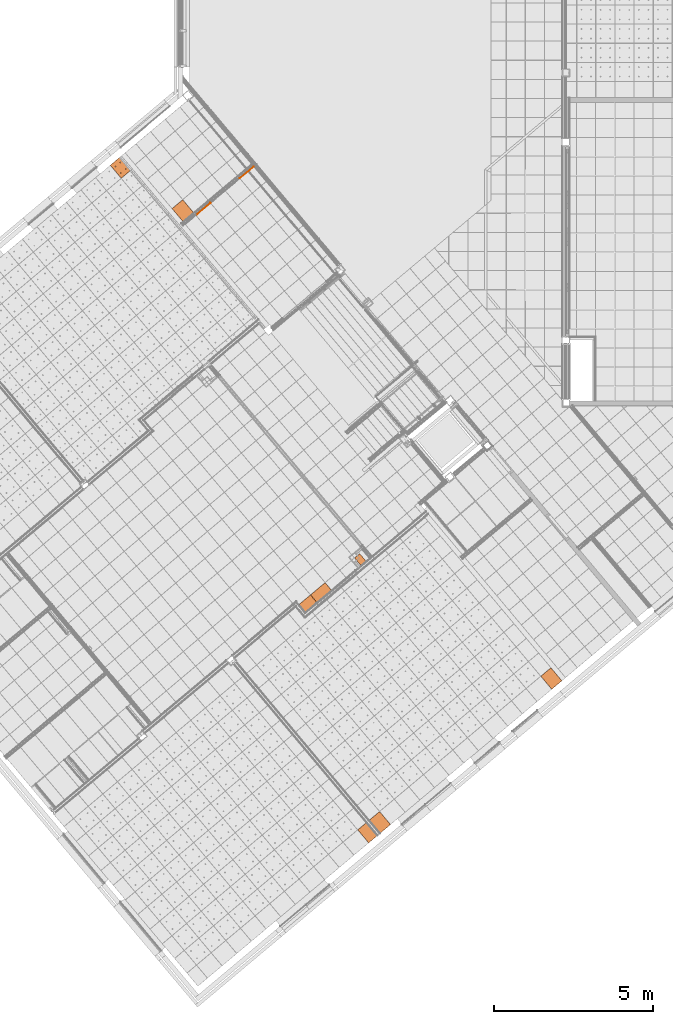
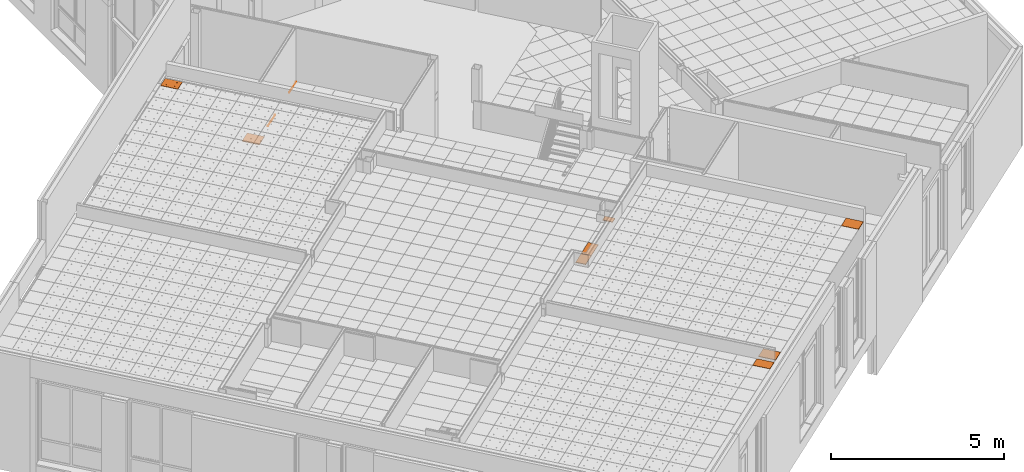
# One storey, part 328 of 338: 10 proxies, 6 elements without a shape of their own.
"""IFC2X3 building model written with IfcOpenShell, lengths in millimetres."""

from ifc_helpers import new_model, entity, si_unit, converted_unit, derived_unit, money_unit, direction, frame, origin_with_axes, place, context, subcontext, project, spatial, faceted_brep, material, type_object, element, aggregate, save


model = new_model("IFC2X3")

# Units and contexts
model_context = context("Model", 3, precision=0.01, world=origin_with_axes(), true_north=direction((0.0, 1.0)))
plan_context = context("Plan", 3, precision=0.01, world=origin_with_axes(), true_north=direction((0.0, 1.0)))
body_context = subcontext(model_context, "Body", "Model", "MODEL_VIEW")
ifc_project = project(units=[si_unit("LENGTHUNIT", "METRE", prefix="MILLI"), si_unit("AREAUNIT", "SQUARE_METRE"), si_unit("VOLUMEUNIT", "CUBIC_METRE"), converted_unit("PLANEANGLEUNIT", "DEGREE", entity("IfcPlaneAngleMeasure", 0.0174532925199), si_unit("PLANEANGLEUNIT", "RADIAN"), dimensions=[0, 0, 0, 0, 0, 0, 0]), money_unit("EUR"), converted_unit("TIMEUNIT", "Year", entity("IfcTimeMeasure", 31556926.0), si_unit("TIMEUNIT", "SECOND"), dimensions=[0, 0, 1, 0, 0, 0, 0]), si_unit("MASSUNIT", "GRAM", prefix="KILO"), si_unit("THERMODYNAMICTEMPERATUREUNIT", "DEGREE_CELSIUS"), si_unit("LUMINOUSINTENSITYUNIT", "LUMEN"), si_unit("ENERGYUNIT", "JOULE", prefix="MEGA"), derived_unit("THERMALCONDUCTANCEUNIT", [(si_unit("POWERUNIT", "WATT"), 1), (si_unit("LENGTHUNIT", "METRE"), -1), (si_unit("THERMODYNAMICTEMPERATUREUNIT", "KELVIN"), -1)]), derived_unit("SPECIFICHEATCAPACITYUNIT", [(si_unit("ENERGYUNIT", "JOULE"), 1), (si_unit("MASSUNIT", "GRAM", prefix="KILO"), -1), (si_unit("THERMODYNAMICTEMPERATUREUNIT", "KELVIN"), -1)]), derived_unit("MASSDENSITYUNIT", [(si_unit("MASSUNIT", "GRAM", prefix="KILO"), 1), (si_unit("VOLUMEUNIT", "CUBIC_METRE"), -1)])], contexts=[model_context, plan_context])

# Site, building, storey
site_placement = place(None, origin_with_axes())
site = spatial("IfcSite", under=ifc_project, at=site_placement, Name="Fortuinstraat Woensdrecht", CompositionType="ELEMENT")
building_placement = place(site_placement, origin_with_axes())
building = spatial("IfcBuilding", under=site, at=building_placement, Name="IKC Fortuna", CompositionType="ELEMENT")
storey_placement = place(building_placement, origin_with_axes())
storey = spatial("IfcBuildingStorey", under=building, at=storey_placement, Name="00 begane grond", CompositionType="ELEMENT", Elevation=0.0)

# Covering, proxies
covering_type = type_object("IfcCoveringType", Name="Curtain Wall Type", PredefinedType="CEILING")
covering_1_placement = place(storey_placement, frame((17937.1227498, -4186.27868692, 4660.0), z_axis=(0.0, 0.0, 1.0), x_axis=(1.0, 0.0, 0.0)))
covering_1 = element("IfcCovering", 1, at=covering_1_placement, inside=storey, type_object=covering_type, Name="45_Plafondafwerking_P02", PredefinedType="CEILING")
ifc_material = material(Name="Gipsplaat")
building_element_proxy_type_1 = type_object("IfcBuildingElementProxyType", Name="Distinct Panel 600 x 320 x 20", PredefinedType="NOTDEFINED")
proxy_1_placement = place(covering_1_placement, origin_with_axes())
proxy_1 = element("IfcBuildingElementProxy", 2, at=proxy_1_placement, type_object=building_element_proxy_type_1, material=ifc_material, Name="__Panel-D", context=body_context, shape_type="Brep", body=[
    faceted_brep([(126.74641276, 311.777288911, -10.0), (-329.049938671, -70.6814593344, -10.0), (-329.049938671, -70.6814593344, 9.99999999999), (126.74641276, 311.777288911, 9.99999999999), (329.049960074, 70.6814301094, -10.0), (-126.74638147, -311.777318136, -10.0), (-126.74638147, -311.777318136, 9.99999999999), (329.049960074, 70.6814301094, 9.99999999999)], [[[0, 1, 2, 3]], [[0, 4, 5, 1]], [[1, 5, 6, 2]], [[3, 2, 6, 7]], [[4, 0, 3, 7]], [[5, 4, 7, 6]]]),
])
building_element_proxy_type_2 = type_object("IfcBuildingElementProxyType", Name="Distinct Panel 215 x 320 x 20", PredefinedType="NOTDEFINED")
proxy_2_placement = place(covering_1_placement, frame((1231.51413168, 1033.36359253, 0.0), z_axis=(0.0, 0.0, 1.0), x_axis=(1.0, 0.0, 0.0)))
proxy_2 = element("IfcBuildingElementProxy", 3, at=proxy_2_placement, type_object=building_element_proxy_type_2, material=ifc_material, Name="__Panel-D", context=body_context, shape_type="Brep", body=[
    faceted_brep([(-20.6195023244, 188.122528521, -10.0), (-181.684366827, 52.9729974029, -10.0), (-181.684366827, 52.9729974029, 9.99999999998), (-20.6195023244, 188.122528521, 9.99999999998), (181.68473127, -52.972733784, -10.0), (20.6191785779, -188.122850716, -10.0), (20.6191785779, -188.122850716, 9.99999999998), (181.68473127, -52.972733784, 9.99999999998)], [[[0, 1, 2, 3]], [[0, 4, 5, 1]], [[1, 5, 6, 2]], [[3, 2, 6, 7]], [[4, 0, 3, 7]], [[5, 4, 7, 6]]]),
])
building_element_proxy_type_3 = type_object("IfcBuildingElementProxyType", Name="Distinct Panel 471 x 320 x 20", PredefinedType="NOTDEFINED")
proxy_3_placement = place(covering_1_placement, frame((-410.118940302, -344.130828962, 0.0), z_axis=(0.0, 0.0, 1.0), x_axis=(1.0, 0.0, 0.0)))
proxy_3 = element("IfcBuildingElementProxy", 4, at=proxy_3_placement, type_object=building_element_proxy_type_3, material=ifc_material, Name="__Panel-D", context=body_context, shape_type="Brep", body=[
    faceted_brep([(77.2387794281, 270.235430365, -10.0), (-279.542308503, -29.1396000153, -10.0), (-279.542308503, -29.1396000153, 9.99999999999), (77.2387794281, 270.235430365, 9.99999999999), (279.542339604, 29.1395682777, -10.0), (-77.2387567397, -270.235462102, -10.0), (-77.2387567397, -270.235462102, 9.99999999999), (279.542339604, 29.1395682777, 9.99999999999)], [[[0, 1, 2, 3]], [[0, 4, 5, 1]], [[1, 5, 6, 2]], [[3, 2, 6, 7]], [[4, 0, 3, 7]], [[5, 4, 7, 6]]]),
])
aggregate(covering_1, [proxy_1, proxy_2, proxy_3])

# Covering, proxy
covering_2_placement = place(storey_placement, frame((13600.915258, 7795.68497331, 2810.0), z_axis=(0.0, 0.0, 1.0), x_axis=(1.0, 0.0, 0.0)))
covering_2 = element("IfcCovering", 5, at=covering_2_placement, inside=storey, type_object=covering_type, Name="45_Plafondafwerking_P02 gec", PredefinedType="CEILING")
building_element_proxy_type_4 = type_object("IfcBuildingElementProxyType", Name="Distinct Panel 440 x 538 x 20", PredefinedType="NOTDEFINED")
proxy_4_placement = place(covering_2_placement, origin_with_axes())
proxy_4 = element("IfcBuildingElementProxy", 6, at=proxy_4_placement, type_object=building_element_proxy_type_4, material=ifc_material, Name="__Panel-D", context=body_context, shape_type="Brep", body=[
    faceted_brep([(-4.71075392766, 343.789781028, -10.0), (-4.71075392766, 343.789781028, 9.99999999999), (337.748846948, -64.3375579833, 9.99999999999), (337.748846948, -64.3375579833, -10.0), (-337.748845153, 64.3375579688, -10.0), (-337.748845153, 64.3375579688, 9.99999999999), (4.71076604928, -343.789781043, 9.99999999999), (4.71076604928, -343.789781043, -10.0)], [[[0, 1, 2, 3]], [[4, 5, 1, 0]], [[1, 5, 6, 2]], [[3, 2, 6, 7]], [[0, 3, 7, 4]], [[7, 6, 5, 4]]]),
])
aggregate(covering_2, [proxy_4])

# Covering, proxies
covering_3_placement = place(storey_placement, frame((15581.2998521, 5435.5548951, 3210.0), z_axis=(0.0, 0.0, 1.0), x_axis=(1.0, 0.0, 0.0)))
covering_3 = element("IfcCovering", 7, at=covering_3_placement, inside=storey, type_object=covering_type, Name="45_Plafondafwerking_P02 v", PredefinedType="CEILING")
building_element_proxy_type_5 = type_object("IfcBuildingElementProxyType", Name="Distinct Panel 575 x 12 x 20", PredefinedType="NOTDEFINED")
proxy_5_placement = place(covering_3_placement, frame((28.2491014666, 3556.16603941, 0.0), z_axis=(0.0, 0.0, 1.0), x_axis=(1.0, 0.0, 0.0)))
proxy_5 = element("IfcBuildingElementProxy", 8, at=proxy_5_placement, type_object=building_element_proxy_type_5, material=ifc_material, Name="__Panel-D", context=body_context, shape_type="Brep", body=[
    faceted_brep([(216.154008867, 185.973392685, -10.0), (216.154008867, 185.973392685, 9.99999999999), (220.682715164, 180.576285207, 9.99999999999), (220.682715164, 180.576285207, -10.0), (-220.682730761, -180.576260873, -10.0), (-220.682730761, -180.576260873, 9.99999999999), (-216.154024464, -185.973368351, 9.99999999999), (-216.154024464, -185.973368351, -10.0)], [[[0, 1, 2, 3]], [[4, 5, 1, 0]], [[1, 5, 6, 2]], [[3, 2, 6, 7]], [[0, 3, 7, 4]], [[7, 6, 5, 4]]]),
])
building_element_proxy_type_6 = type_object("IfcBuildingElementProxyType", Name="Distinct Panel 600 x 12 x 20", PredefinedType="NOTDEFINED")
proxy_6_placement = place(covering_3_placement, frame((-1341.1508953, 2407.10265016, 0.0), z_axis=(0.0, 0.0, 1.0), x_axis=(1.0, 0.0, 0.0)))
proxy_6 = element("IfcBuildingElementProxy", 9, at=proxy_6_placement, type_object=building_element_proxy_type_6, material=ifc_material, Name="__Panel-D", context=body_context, shape_type="Brep", body=[
    faceted_brep([(225.633828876, 193.927909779, -10.0), (225.633828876, 193.927909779, 9.99999999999), (230.162533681, 188.530807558, 9.99999999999), (230.162533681, 188.530807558, -10.0), (-230.162560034, -188.530782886, -10.0), (-230.162560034, -188.530782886, 9.99999999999), (-225.633848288, -193.927885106, 9.99999999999), (-225.633848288, -193.927885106, -10.0)], [[[0, 1, 2, 3]], [[4, 5, 1, 0]], [[1, 5, 6, 2]], [[3, 2, 6, 7]], [[0, 3, 7, 4]], [[7, 6, 5, 4]]]),
])
aggregate(covering_3, [proxy_5, proxy_6])

# Covering, proxy
covering_4_placement = place(storey_placement, frame((15863.124366, 4456.31398675, 4619.99995334), z_axis=(0.0, 0.0, 1.0), x_axis=(1.0, 0.0, 0.0)))
covering_4 = element("IfcCovering", 10, at=covering_4_placement, inside=storey, type_object=covering_type, Name="45_Plafondafwerking_P01", PredefinedType="CEILING")
building_element_proxy_type_7 = type_object("IfcBuildingElementProxyType", Name="Main Panel 401 x 538 x 20", PredefinedType="NOTDEFINED")
proxy_7_placement = place(covering_4_placement, frame((-4215.32018609, 4687.11131847, 1.08315923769), z_axis=(0.0, 0.0, 1.0), x_axis=(0.642787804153, -0.766044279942, 0.0)))
proxy_7 = element("IfcBuildingElementProxy", 11, at=proxy_7_placement, type_object=building_element_proxy_type_7, material=ifc_material, Name="__600x931 Rockfon Krios", context=body_context, shape_type="Brep", body=[
    faceted_brep([(-266.295938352, 197.833873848, -11.0694540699), (-266.295938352, -0.0540474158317, -9.99985394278), (-266.295938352, 0.054052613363, 9.99985391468), (-266.295938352, 197.941973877, 8.93025378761), (-6.15777082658e-05, 197.833873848, -11.0694540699), (266.295815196, 197.833873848, -11.0694540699), (266.295815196, -0.0540474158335, -9.99985394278), (266.295815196, -197.941968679, -8.9302538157), (-6.15777091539e-05, -197.941968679, -8.9302538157), (-266.295938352, -197.941968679, -8.9302538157), (134.322559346, 88.9123709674, -10.4807245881), (136.636232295, 89.21553354, -10.4823632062), (138.843913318, 89.8126472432, -10.4855906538), (140.878523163, 90.6855690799, -10.4903088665), (142.678241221, 91.8077757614, -10.4963744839), (144.188383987, 93.1451696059, -10.5036032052), (145.363066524, 94.6571145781, -10.5117753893), (146.166596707, 96.2976709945, -10.5206427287), (146.574559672, 98.0169913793, -10.5299357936), (146.574559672, 99.7628350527, -10.539372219), (146.166596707, 101.482155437, -10.548665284), (145.363066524, 103.122711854, -10.5575326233), (144.188383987, 104.634656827, -10.5657048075), (142.678241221, 105.972050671, -10.5729335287), (140.878523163, 107.094257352, -10.5789991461), (138.843913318, 107.967179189, -10.5837173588), (136.636232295, 108.564292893, -10.5869448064), (134.322559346, 108.867455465, -10.5885834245), (133.147876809, 108.867455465, -10.5885834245), (131.973194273, 108.867455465, -10.5885834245), (129.659521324, 108.564292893, -10.5869448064), (127.451840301, 107.967179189, -10.5837173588), (125.417230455, 107.094257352, -10.5789991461), (123.617512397, 105.972050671, -10.5729335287), (122.107369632, 104.634656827, -10.5657048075), (120.932687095, 103.122711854, -10.5575326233), (120.129156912, 101.482155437, -10.548665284), (119.721193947, 99.7628350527, -10.539372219), (119.721193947, 98.0169913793, -10.5299357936), (120.129156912, 96.2976709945, -10.5206427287), (120.932687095, 94.6571145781, -10.5117753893), (122.107369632, 93.1451696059, -10.5036032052), (123.617512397, 91.8077757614, -10.4963744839), (125.417230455, 90.6855690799, -10.4903088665), (127.451840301, 89.8126472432, -10.4855906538), (129.659521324, 89.21553354, -10.4823632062), (131.973194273, 88.9123709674, -10.4807245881), (134.322559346, -108.975550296, -9.41112446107), (136.636232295, -108.672387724, -9.41276307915), (138.843913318, -108.07527402, -9.41599052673), (140.878523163, -107.202352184, -9.42070873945), (142.678241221, -106.080145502, -9.4267743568), (144.188383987, -104.742751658, -9.43400307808), (145.363066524, -103.230806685, -9.44217526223), (146.166596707, -101.590250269, -9.45104260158), (146.574559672, -99.8709298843, -9.46033566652), (146.574559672, -98.125086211, -9.46977209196), (146.166596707, -96.4057658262, -9.47906515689), (145.363066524, -94.7652094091, -9.48793249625), (144.188383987, -93.2532644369, -9.4961046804), (142.678241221, -91.9158705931, -9.50333340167), (140.878523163, -90.7936639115, -9.50939901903), (138.843913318, -89.9207420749, -9.51411723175), (136.636232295, -89.323628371, -9.51734467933), (134.322559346, -89.0204657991, -9.51898329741), (133.147876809, -89.0204657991, -9.51898329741), (131.973194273, -89.0204657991, -9.51898329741), (129.659521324, -89.323628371, -9.51734467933), (127.451840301, -89.9207420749, -9.51411723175), (125.417230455, -90.7936639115, -9.50939901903), (123.617512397, -91.9158705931, -9.50333340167), (122.107369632, -93.2532644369, -9.4961046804), (120.932687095, -94.7652094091, -9.48793249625), (120.129156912, -96.4057658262, -9.47906515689), (119.721193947, -98.125086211, -9.46977209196), (119.721193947, -99.8709298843, -9.46033566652), (120.129156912, -101.590250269, -9.45104260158), (120.932687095, -103.230806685, -9.44217526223), (122.107369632, -104.742751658, -9.43400307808), (123.617512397, -106.080145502, -9.4267743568), (125.417230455, -107.202352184, -9.42070873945), (127.451840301, -108.07527402, -9.41599052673), (129.659521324, -108.672387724, -9.41276307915), (131.973194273, -108.975550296, -9.41112446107), (-131.973317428, -108.975550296, -9.41112446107), (-129.659644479, -108.672387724, -9.41276307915), (-127.451963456, -108.07527402, -9.41599052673), (-125.417353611, -107.202352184, -9.42070873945), (-123.617635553, -106.080145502, -9.4267743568), (-122.107492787, -104.742751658, -9.43400307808), (-120.93281025, -103.230806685, -9.44217526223), (-120.129280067, -101.590250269, -9.45104260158), (-119.721317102, -99.8709298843, -9.46033566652), (-119.721317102, -98.125086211, -9.46977209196), (-120.129280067, -96.4057658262, -9.47906515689), (-120.93281025, -94.7652094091, -9.48793249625), (-122.107492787, -93.2532644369, -9.4961046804), (-123.617635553, -91.9158705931, -9.50333340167), (-125.417353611, -90.7936639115, -9.50939901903), (-127.451963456, -89.9207420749, -9.51411723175), (-129.659644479, -89.323628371, -9.51734467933), (-131.973317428, -89.0204657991, -9.51898329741), (-133.147999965, -89.0204657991, -9.51898329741), (-134.322682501, -89.0204657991, -9.51898329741), (-136.63635545, -89.323628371, -9.51734467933), (-138.844036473, -89.9207420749, -9.51411723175), (-140.878646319, -90.7936639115, -9.50939901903), (-142.678364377, -91.9158705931, -9.50333340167), (-144.188507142, -93.2532644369, -9.4961046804), (-145.363189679, -94.7652094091, -9.48793249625), (-146.166719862, -96.4057658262, -9.47906515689), (-146.574682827, -98.125086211, -9.46977209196), (-146.574682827, -99.8709298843, -9.46033566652), (-146.166719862, -101.590250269, -9.45104260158), (-145.363189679, -103.230806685, -9.44217526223), (-144.188507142, -104.742751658, -9.43400307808), (-142.678364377, -106.080145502, -9.4267743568), (-140.878646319, -107.202352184, -9.42070873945), (-138.844036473, -108.07527402, -9.41599052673), (-136.63635545, -108.672387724, -9.41276307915), (-134.322682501, -108.975550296, -9.41112446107), (-131.973317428, 88.9123709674, -10.4807245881), (-129.659644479, 89.21553354, -10.4823632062), (-127.451963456, 89.8126472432, -10.4855906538), (-125.417353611, 90.6855690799, -10.4903088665), (-123.617635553, 91.8077757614, -10.4963744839), (-122.107492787, 93.1451696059, -10.5036032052), (-120.93281025, 94.6571145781, -10.5117753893), (-120.129280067, 96.2976709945, -10.5206427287), (-119.721317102, 98.0169913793, -10.5299357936), (-119.721317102, 99.7628350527, -10.539372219), (-120.129280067, 101.482155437, -10.548665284), (-120.93281025, 103.122711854, -10.5575326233), (-122.107492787, 104.634656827, -10.5657048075), (-123.617635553, 105.972050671, -10.5729335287), (-125.417353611, 107.094257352, -10.5789991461), (-127.451963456, 107.967179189, -10.5837173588), (-129.659644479, 108.564292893, -10.5869448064), (-131.973317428, 108.867455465, -10.5885834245), (-133.147999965, 108.867455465, -10.5885834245), (-134.322682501, 108.867455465, -10.5885834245), (-136.63635545, 108.564292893, -10.5869448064), (-138.844036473, 107.967179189, -10.5837173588), (-140.878646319, 107.094257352, -10.5789991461), (-142.678364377, 105.972050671, -10.5729335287), (-144.188507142, 104.634656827, -10.5657048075), (-145.363189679, 103.122711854, -10.5575326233), (-146.166719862, 101.482155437, -10.548665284), (-146.574682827, 99.7628350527, -10.539372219), (-146.574682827, 98.0169913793, -10.5299357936), (-146.166719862, 96.2976709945, -10.5206427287), (-145.363189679, 94.6571145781, -10.5117753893), (-144.188507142, 93.1451696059, -10.5036032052), (-142.678364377, 91.8077757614, -10.4963744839), (-140.878646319, 90.6855690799, -10.4903088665), (-138.844036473, 89.8126472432, -10.4855906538), (-136.63635545, 89.21553354, -10.4823632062), (-134.322682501, 88.9123709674, -10.4807245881), (-266.295938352, -197.83386865, 11.0694540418), (-6.15777091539e-05, -197.83386865, 11.0694540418), (266.295815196, -197.83386865, 11.0694540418), (266.295815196, 0.0540526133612, 9.99985391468), (266.295815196, 197.941973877, 8.93025378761), (-6.15777091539e-05, 197.941973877, 8.93025378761), (134.322559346, 89.0204709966, 9.51898326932), (131.973194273, 89.0204709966, 9.51898326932), (129.659521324, 89.3236335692, 9.51734465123), (127.451840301, 89.9207472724, 9.51411720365), (125.417230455, 90.7936691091, 9.50939899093), (123.617512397, 91.9158757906, 9.50333337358), (122.107369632, 93.2532696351, 9.49610465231), (120.932687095, 94.7652146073, 9.48793246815), (120.129156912, 96.4057710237, 9.4790651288), (119.721193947, 98.1250914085, 9.46977206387), (119.721193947, 99.8709350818, 9.46033563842), (120.129156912, 101.590255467, 9.45104257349), (120.932687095, 103.230811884, 9.44217523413), (122.107369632, 104.742756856, 9.43400304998), (123.617512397, 106.0801507, 9.42677432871), (125.417230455, 107.202357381, 9.42070871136), (127.451840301, 108.075279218, 9.41599049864), (129.659521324, 108.672392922, 9.41276305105), (131.973194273, 108.975555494, 9.41112443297), (133.147876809, 108.975555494, 9.41112443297), (134.322559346, 108.975555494, 9.41112443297), (136.636232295, 108.672392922, 9.41276305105), (138.843913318, 108.075279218, 9.41599049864), (140.878523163, 107.202357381, 9.42070871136), (142.678241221, 106.0801507, 9.42677432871), (144.188383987, 104.742756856, 9.43400304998), (145.363066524, 103.230811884, 9.44217523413), (146.166596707, 101.590255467, 9.45104257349), (146.574559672, 99.8709350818, 9.46033563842), (146.574559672, 98.1250914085, 9.46977206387), (146.166596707, 96.4057710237, 9.4790651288), (145.363066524, 94.7652146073, 9.48793246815), (144.188383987, 93.2532696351, 9.49610465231), (142.678241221, 91.9158757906, 9.50333337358), (140.878523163, 90.7936691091, 9.50939899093), (138.843913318, 89.9207472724, 9.51411720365), (136.636232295, 89.3236335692, 9.51734465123), (134.322559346, -108.867450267, 10.5885833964), (131.973194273, -108.867450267, 10.5885833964), (129.659521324, -108.564287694, 10.5869447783), (127.451840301, -107.967173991, 10.5837173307), (125.417230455, -107.094252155, 10.578999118), (123.617512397, -105.972045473, 10.5729335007), (122.107369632, -104.634651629, 10.5657047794), (120.932687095, -103.122706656, 10.5575325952), (120.129156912, -101.48215024, 10.5486652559), (119.721193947, -99.7628298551, 10.5393721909), (119.721193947, -98.0169861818, 10.5299357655), (120.129156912, -96.297665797, 10.5206427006), (120.932687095, -94.6571093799, 10.5117753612), (122.107369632, -93.1451644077, 10.5036031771), (123.617512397, -91.8077705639, 10.4963744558), (125.417230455, -90.6855638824, 10.4903088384), (127.451840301, -89.8126420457, 10.4855906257), (129.659521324, -89.2155283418, 10.4823631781), (131.973194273, -88.9123657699, 10.48072456), (133.147876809, -88.9123657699, 10.48072456), (134.322559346, -88.9123657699, 10.48072456), (136.636232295, -89.2155283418, 10.4823631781), (138.843913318, -89.8126420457, 10.4855906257), (140.878523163, -90.6855638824, 10.4903088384), (142.678241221, -91.8077705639, 10.4963744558), (144.188383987, -93.1451644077, 10.5036031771), (145.363066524, -94.6571093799, 10.5117753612), (146.166596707, -96.297665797, 10.5206427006), (146.574559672, -98.0169861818, 10.5299357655), (146.574559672, -99.7628298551, 10.5393721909), (146.166596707, -101.48215024, 10.5486652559), (145.363066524, -103.122706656, 10.5575325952), (144.188383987, -104.634651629, 10.5657047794), (142.678241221, -105.972045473, 10.5729335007), (140.878523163, -107.094252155, 10.578999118), (138.843913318, -107.967173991, 10.5837173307), (136.636232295, -108.564287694, 10.5869447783), (-131.973317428, -108.867450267, 10.5885833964), (-134.322682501, -108.867450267, 10.5885833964), (-136.63635545, -108.564287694, 10.5869447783), (-138.844036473, -107.967173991, 10.5837173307), (-140.878646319, -107.094252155, 10.578999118), (-142.678364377, -105.972045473, 10.5729335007), (-144.188507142, -104.634651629, 10.5657047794), (-145.363189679, -103.122706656, 10.5575325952), (-146.166719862, -101.48215024, 10.5486652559), (-146.574682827, -99.7628298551, 10.5393721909), (-146.574682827, -98.0169861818, 10.5299357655), (-146.166719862, -96.297665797, 10.5206427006), (-145.363189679, -94.6571093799, 10.5117753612), (-144.188507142, -93.1451644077, 10.5036031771), (-142.678364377, -91.8077705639, 10.4963744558), (-140.878646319, -90.6855638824, 10.4903088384), (-138.844036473, -89.8126420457, 10.4855906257), (-136.63635545, -89.2155283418, 10.4823631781), (-134.322682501, -88.9123657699, 10.48072456), (-133.147999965, -88.9123657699, 10.48072456), (-131.973317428, -88.9123657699, 10.48072456), (-129.659644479, -89.2155283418, 10.4823631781), (-127.451963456, -89.8126420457, 10.4855906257), (-125.417353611, -90.6855638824, 10.4903088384), (-123.617635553, -91.8077705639, 10.4963744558), (-122.107492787, -93.1451644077, 10.5036031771), (-120.93281025, -94.6571093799, 10.5117753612), (-120.129280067, -96.297665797, 10.5206427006), (-119.721317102, -98.0169861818, 10.5299357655), (-119.721317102, -99.7628298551, 10.5393721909), (-120.129280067, -101.48215024, 10.5486652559), (-120.93281025, -103.122706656, 10.5575325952), (-122.107492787, -104.634651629, 10.5657047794), (-123.617635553, -105.972045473, 10.5729335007), (-125.417353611, -107.094252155, 10.578999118), (-127.451963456, -107.967173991, 10.5837173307), (-129.659644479, -108.564287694, 10.5869447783), (-131.973317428, 89.0204709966, 9.51898326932), (-134.322682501, 89.0204709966, 9.51898326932), (-136.63635545, 89.3236335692, 9.51734465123), (-138.844036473, 89.9207472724, 9.51411720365), (-140.878646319, 90.7936691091, 9.50939899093), (-142.678364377, 91.9158757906, 9.50333337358), (-144.188507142, 93.2532696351, 9.49610465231), (-145.363189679, 94.7652146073, 9.48793246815), (-146.166719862, 96.4057710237, 9.4790651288), (-146.574682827, 98.1250914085, 9.46977206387), (-146.574682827, 99.8709350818, 9.46033563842), (-146.166719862, 101.590255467, 9.45104257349), (-145.363189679, 103.230811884, 9.44217523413), (-144.188507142, 104.742756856, 9.43400304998), (-142.678364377, 106.0801507, 9.42677432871), (-140.878646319, 107.202357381, 9.42070871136), (-138.844036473, 108.075279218, 9.41599049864), (-136.63635545, 108.672392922, 9.41276305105), (-134.322682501, 108.975555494, 9.41112443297), (-133.147999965, 108.975555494, 9.41112443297), (-131.973317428, 108.975555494, 9.41112443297), (-129.659644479, 108.672392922, 9.41276305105), (-127.451963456, 108.075279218, 9.41599049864), (-125.417353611, 107.202357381, 9.42070871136), (-123.617635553, 106.0801507, 9.42677432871), (-122.107492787, 104.742756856, 9.43400304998), (-120.93281025, 103.230811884, 9.44217523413), (-120.129280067, 101.590255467, 9.45104257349), (-119.721317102, 99.8709350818, 9.46033563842), (-119.721317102, 98.1250914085, 9.46977206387), (-120.129280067, 96.4057710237, 9.4790651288), (-120.93281025, 94.7652146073, 9.48793246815), (-122.107492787, 93.2532696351, 9.49610465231), (-123.617635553, 91.9158757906, 9.50333337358), (-125.417353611, 90.7936691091, 9.50939899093), (-127.451963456, 89.9207472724, 9.51411720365), (-129.659644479, 89.3236335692, 9.51734465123)], [[[0, 1, 2, 3]], [[0, 4, 5, 6, 7, 8, 9, 1], [10, 11, 12, 13, 14, 15, 16, 17, 18, 19, 20, 21, 22, 23, 24, 25, 26, 27, 28, 29, 30, 31, 32, 33, 34, 35, 36, 37, 38, 39, 40, 41, 42, 43, 44, 45, 46], [47, 48, 49, 50, 51, 52, 53, 54, 55, 56, 57, 58, 59, 60, 61, 62, 63, 64, 65, 66, 67, 68, 69, 70, 71, 72, 73, 74, 75, 76, 77, 78, 79, 80, 81, 82, 83], [84, 85, 86, 87, 88, 89, 90, 91, 92, 93, 94, 95, 96, 97, 98, 99, 100, 101, 102, 103, 104, 105, 106, 107, 108, 109, 110, 111, 112, 113, 114, 115, 116, 117, 118, 119, 120], [121, 122, 123, 124, 125, 126, 127, 128, 129, 130, 131, 132, 133, 134, 135, 136, 137, 138, 139, 140, 141, 142, 143, 144, 145, 146, 147, 148, 149, 150, 151, 152, 153, 154, 155, 156, 157]], [[1, 9, 158, 2]], [[3, 2, 158, 159, 160, 161, 162, 163], [164, 165, 166, 167, 168, 169, 170, 171, 172, 173, 174, 175, 176, 177, 178, 179, 180, 181, 182, 183, 184, 185, 186, 187, 188, 189, 190, 191, 192, 193, 194, 195, 196, 197, 198, 199, 200], [201, 202, 203, 204, 205, 206, 207, 208, 209, 210, 211, 212, 213, 214, 215, 216, 217, 218, 219, 220, 221, 222, 223, 224, 225, 226, 227, 228, 229, 230, 231, 232, 233, 234, 235, 236, 237], [238, 239, 240, 241, 242, 243, 244, 245, 246, 247, 248, 249, 250, 251, 252, 253, 254, 255, 256, 257, 258, 259, 260, 261, 262, 263, 264, 265, 266, 267, 268, 269, 270, 271, 272, 273, 274], [275, 276, 277, 278, 279, 280, 281, 282, 283, 284, 285, 286, 287, 288, 289, 290, 291, 292, 293, 294, 295, 296, 297, 298, 299, 300, 301, 302, 303, 304, 305, 306, 307, 308, 309, 310, 311]], [[4, 0, 3, 163]], [[5, 4, 163, 162]], [[6, 5, 162, 161]], [[7, 6, 161, 160]], [[8, 7, 160, 159]], [[9, 8, 159, 158]], [[11, 10, 164, 200]], [[12, 11, 200, 199]], [[13, 12, 199, 198]], [[14, 13, 198, 197]], [[15, 14, 197, 196]], [[16, 15, 196, 195]], [[17, 16, 195, 194]], [[18, 17, 194, 193]], [[19, 18, 193, 192]], [[20, 19, 192, 191]], [[21, 20, 191, 190]], [[22, 21, 190, 189]], [[23, 22, 189, 188]], [[24, 23, 188, 187]], [[25, 24, 187, 186]], [[26, 25, 186, 185]], [[27, 26, 185, 184]], [[28, 27, 184, 183]], [[29, 28, 183, 182]], [[30, 29, 182, 181]], [[31, 30, 181, 180]], [[32, 31, 180, 179]], [[33, 32, 179, 178]], [[34, 33, 178, 177]], [[35, 34, 177, 176]], [[36, 35, 176, 175]], [[37, 36, 175, 174]], [[38, 37, 174, 173]], [[39, 38, 173, 172]], [[40, 39, 172, 171]], [[41, 40, 171, 170]], [[42, 41, 170, 169]], [[43, 42, 169, 168]], [[44, 43, 168, 167]], [[45, 44, 167, 166]], [[46, 45, 166, 165]], [[10, 46, 165, 164]], [[48, 47, 201, 237]], [[49, 48, 237, 236]], [[50, 49, 236, 235]], [[51, 50, 235, 234]], [[52, 51, 234, 233]], [[53, 52, 233, 232]], [[54, 53, 232, 231]], [[55, 54, 231, 230]], [[56, 55, 230, 229]], [[57, 56, 229, 228]], [[58, 57, 228, 227]], [[59, 58, 227, 226]], [[60, 59, 226, 225]], [[61, 60, 225, 224]], [[62, 61, 224, 223]], [[63, 62, 223, 222]], [[64, 63, 222, 221]], [[65, 64, 221, 220]], [[66, 65, 220, 219]], [[67, 66, 219, 218]], [[68, 67, 218, 217]], [[69, 68, 217, 216]], [[70, 69, 216, 215]], [[71, 70, 215, 214]], [[72, 71, 214, 213]], [[73, 72, 213, 212]], [[74, 73, 212, 211]], [[75, 74, 211, 210]], [[76, 75, 210, 209]], [[77, 76, 209, 208]], [[78, 77, 208, 207]], [[79, 78, 207, 206]], [[80, 79, 206, 205]], [[81, 80, 205, 204]], [[82, 81, 204, 203]], [[83, 82, 203, 202]], [[47, 83, 202, 201]], [[85, 84, 238, 274]], [[86, 85, 274, 273]], [[87, 86, 273, 272]], [[88, 87, 272, 271]], [[89, 88, 271, 270]], [[90, 89, 270, 269]], [[91, 90, 269, 268]], [[92, 91, 268, 267]], [[93, 92, 267, 266]], [[94, 93, 266, 265]], [[95, 94, 265, 264]], [[96, 95, 264, 263]], [[97, 96, 263, 262]], [[98, 97, 262, 261]], [[99, 98, 261, 260]], [[100, 99, 260, 259]], [[101, 100, 259, 258]], [[102, 101, 258, 257]], [[103, 102, 257, 256]], [[104, 103, 256, 255]], [[105, 104, 255, 254]], [[106, 105, 254, 253]], [[107, 106, 253, 252]], [[108, 107, 252, 251]], [[109, 108, 251, 250]], [[110, 109, 250, 249]], [[111, 110, 249, 248]], [[112, 111, 248, 247]], [[113, 112, 247, 246]], [[114, 113, 246, 245]], [[115, 114, 245, 244]], [[116, 115, 244, 243]], [[117, 116, 243, 242]], [[118, 117, 242, 241]], [[119, 118, 241, 240]], [[120, 119, 240, 239]], [[84, 120, 239, 238]], [[122, 121, 275, 311]], [[123, 122, 311, 310]], [[124, 123, 310, 309]], [[125, 124, 309, 308]], [[126, 125, 308, 307]], [[127, 126, 307, 306]], [[128, 127, 306, 305]], [[129, 128, 305, 304]], [[130, 129, 304, 303]], [[131, 130, 303, 302]], [[132, 131, 302, 301]], [[133, 132, 301, 300]], [[134, 133, 300, 299]], [[135, 134, 299, 298]], [[136, 135, 298, 297]], [[137, 136, 297, 296]], [[138, 137, 296, 295]], [[139, 138, 295, 294]], [[140, 139, 294, 293]], [[141, 140, 293, 292]], [[142, 141, 292, 291]], [[143, 142, 291, 290]], [[144, 143, 290, 289]], [[145, 144, 289, 288]], [[146, 145, 288, 287]], [[147, 146, 287, 286]], [[148, 147, 286, 285]], [[149, 148, 285, 284]], [[150, 149, 284, 283]], [[151, 150, 283, 282]], [[152, 151, 282, 281]], [[153, 152, 281, 280]], [[154, 153, 280, 279]], [[155, 154, 279, 278]], [[156, 155, 278, 277]], [[157, 156, 277, 276]], [[121, 157, 276, 275]]]),
])
aggregate(covering_4, [proxy_7])

covering_5_placement = place(storey_placement, frame((15150.6418133, -6622.13986243, 4660.0), z_axis=(0.0, 0.0, 1.0), x_axis=(1.0, 0.0, 0.0)))
covering_5 = element("IfcCovering", 12, at=covering_5_placement, inside=storey, type_object=covering_type, Name="45_Plafondafwerking_P01", PredefinedType="CEILING")
building_element_proxy_type_8 = type_object("IfcBuildingElementProxyType", Name="356 x 538 x 20", PredefinedType="NOTDEFINED")
proxy_8_placement = place(covering_5_placement, frame((4243.26970724, -5099.2201314, 0.0), z_axis=(0.0, 0.0, 1.0), x_axis=(1.0, 0.0, 0.0)))
proxy_8 = element("IfcBuildingElementProxy", 13, at=proxy_8_placement, type_object=building_element_proxy_type_8, material=ifc_material, Name="__600x671 Rockfon Krios", context=body_context, shape_type="Brep", body=[
    faceted_brep([(-36.8930002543, 316.609538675, -10.0), (-305.393173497, 91.311024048, -10.0), (-305.393173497, 91.311024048, 9.99999999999), (-36.8930002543, 316.609538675, 9.99999999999), (305.393172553, -91.3110126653, -10.0), (36.8929993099, -316.609555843, -10.0), (36.8929993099, -316.609555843, 9.99999999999), (305.393172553, -91.3110126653, 9.99999999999)], [[[0, 1, 2, 3]], [[0, 4, 5, 1]], [[1, 5, 6, 2]], [[3, 2, 6, 7]], [[4, 0, 3, 7]], [[5, 4, 7, 6]]]),
])
aggregate(covering_5, [proxy_8])

# Covering, proxies
covering_6_placement = place(storey_placement, frame((19785.7448517, -11392.5753808, 4660.0), z_axis=(0.0, 0.0, 1.0), x_axis=(1.0, 0.0, 0.0)))
covering_6 = element("IfcCovering", 14, at=covering_6_placement, inside=storey, type_object=covering_type, Name="45_Plafondafwerking_P01", PredefinedType="CEILING")
building_element_proxy_type_9 = type_object("IfcBuildingElementProxyType", Name="417 x 538 x 20", PredefinedType="NOTDEFINED")
proxy_9_placement = place(covering_6_placement, frame((0.0, 0.0, 2.3714363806e-10), z_axis=(0.0, 0.0, 1.0), x_axis=(1.0, 0.0, 0.0)))
proxy_9 = element("IfcBuildingElementProxy", 15, at=proxy_9_placement, type_object=building_element_proxy_type_9, material=ifc_material, Name="__600x600 Rockfon Krios", context=body_context, shape_type="Brep", body=[
    faceted_brep([(-13.1469893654, 336.535077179, -10.0), (-329.13943228, 71.3858014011, -10.0), (-329.13943228, 71.3858014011, 9.99999999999), (-13.1469893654, 336.535077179, 9.99999999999), (329.139198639, -71.3855408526, -10.0), (13.146755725, -336.534776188, -10.0), (13.146755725, -336.534776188, 9.99999999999), (329.139198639, -71.3855408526, 9.99999999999)], [[[0, 1, 2, 3]], [[0, 4, 5, 1]], [[1, 5, 6, 2]], [[3, 2, 6, 7]], [[4, 0, 3, 7]], [[5, 4, 7, 6]]]),
])
proxy_10_placement = place(covering_6_placement, frame((5375.71486513, 4510.76265124, 0.0), z_axis=(0.0, 0.0, 1.0), x_axis=(1.0, 0.0, 0.0)))
proxy_10 = element("IfcBuildingElementProxy", 16, at=proxy_10_placement, type_object=building_element_proxy_type_9, material=ifc_material, Name="__600x629 Rockfon Krios", context=body_context, shape_type="Brep", body=[
    faceted_brep([(-13.1470530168, 336.535050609, -10.0), (-329.139405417, 71.3858637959, -10.0), (-329.139405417, 71.3858637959, 9.99999999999), (-13.1470530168, 336.535050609, 9.99999999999), (329.139164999, -71.3855853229, -10.0), (13.14683282, -336.534782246, -10.0), (13.14683282, -336.534782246, 9.99999999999), (329.139164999, -71.3855853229, 9.99999999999)], [[[0, 1, 2, 3]], [[0, 4, 5, 1]], [[1, 5, 6, 2]], [[3, 2, 6, 7]], [[4, 0, 3, 7]], [[5, 4, 7, 6]]]),
])
aggregate(covering_6, [proxy_9, proxy_10])

save(model, "model.ifc")
